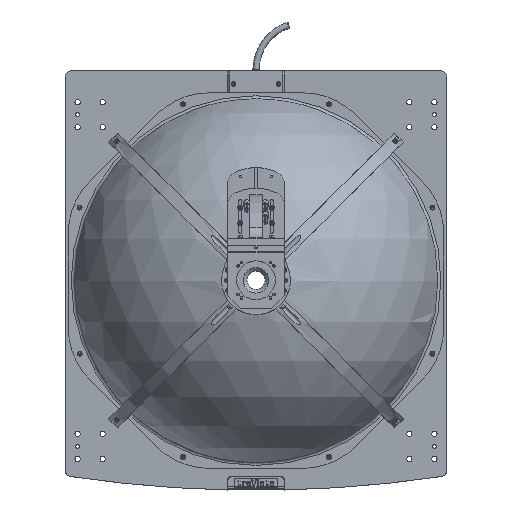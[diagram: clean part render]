
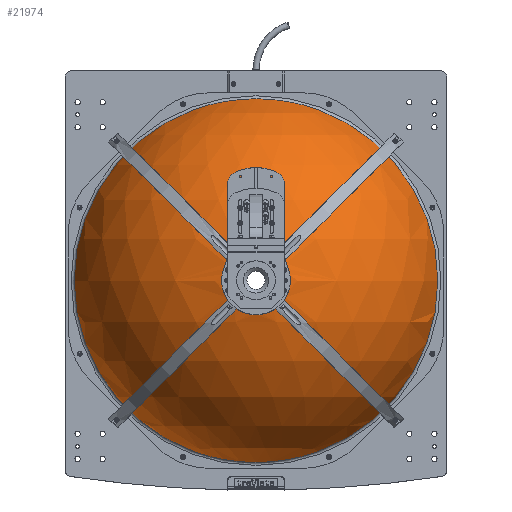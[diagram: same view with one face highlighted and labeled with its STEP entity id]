
A CAD part, top view. The second image highlights one B-rep face of the part: STEP entity #21974.
In plain terms, the highlighted spherical face has radius 298 mm.
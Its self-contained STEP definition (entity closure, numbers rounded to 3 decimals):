
#509=SPHERICAL_SURFACE('',#24226,298.);
#1149=FACE_BOUND('',#3725,.T.);
#2346=FACE_OUTER_BOUND('',#3724,.T.);
#3724=EDGE_LOOP('',(#17036,#17037));
#3725=EDGE_LOOP('',(#17038));
#8638=CIRCLE('',#24207,54.36);
#8649=CIRCLE('',#24223,290.399);
#8651=CIRCLE('',#24225,290.399);
#10087=VERTEX_POINT('',#34496);
#10097=VERTEX_POINT('',#34523);
#10098=VERTEX_POINT('',#34524);
#12667=EDGE_CURVE('',#10087,#10087,#8638,.T.);
#12679=EDGE_CURVE('',#10097,#10098,#8649,.T.);
#12681=EDGE_CURVE('',#10098,#10097,#8651,.T.);
#17036=ORIENTED_EDGE('',*,*,#12679,.F.);
#17037=ORIENTED_EDGE('',*,*,#12681,.F.);
#17038=ORIENTED_EDGE('',*,*,#12667,.T.);
#21974=ADVANCED_FACE('',(#2346,#1149),#509,.T.);
#24207=AXIS2_PLACEMENT_3D('',#34497,#28135,#28136);
#24223=AXIS2_PLACEMENT_3D('',#34525,#28168,#28169);
#24225=AXIS2_PLACEMENT_3D('',#34527,#28172,#28173);
#24226=AXIS2_PLACEMENT_3D('',#34528,#28174,#28175);
#28135=DIRECTION('center_axis',(0.,-1.,0.));
#28136=DIRECTION('ref_axis',(-1.,0.,0.));
#28168=DIRECTION('center_axis',(0.,-1.,0.));
#28169=DIRECTION('ref_axis',(-1.,0.,0.));
#28172=DIRECTION('center_axis',(0.,-1.,0.));
#28173=DIRECTION('ref_axis',(-1.,0.,0.));
#28174=DIRECTION('center_axis',(0.,0.,1.));
#28175=DIRECTION('ref_axis',(1.,0.,0.));
#34496=CARTESIAN_POINT('',(-54.36,293.,0.));
#34497=CARTESIAN_POINT('Origin',(0.,293.,0.));
#34523=CARTESIAN_POINT('',(290.399,66.878,0.));
#34524=CARTESIAN_POINT('',(0.,66.878,290.399));
#34525=CARTESIAN_POINT('Origin',(0.,66.878,0.));
#34527=CARTESIAN_POINT('Origin',(0.,66.878,0.));
#34528=CARTESIAN_POINT('Origin',(0.,0.,0.));
